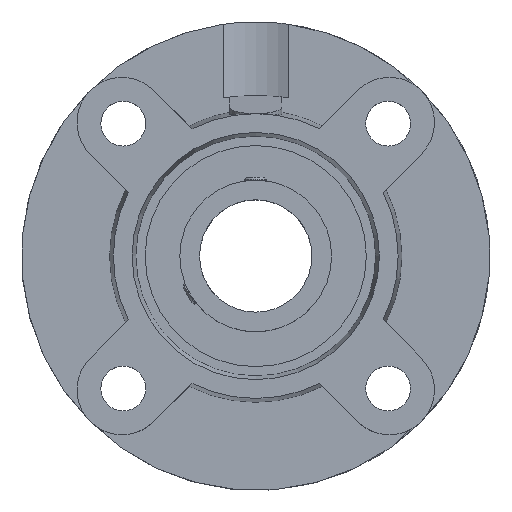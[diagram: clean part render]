
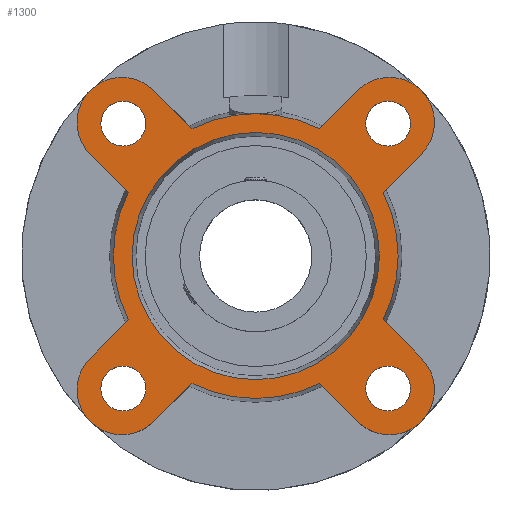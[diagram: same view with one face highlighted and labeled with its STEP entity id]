
A CAD part, top view. The second image highlights one B-rep face of the part: STEP entity #1300.
In plain terms, the highlighted planar face has unit normal (0, 0, 1).
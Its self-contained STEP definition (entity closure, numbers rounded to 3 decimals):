
#123=CARTESIAN_POINT('',(-29.355,-35.355,16.0));
#124=VERTEX_POINT('',#123);
#125=CARTESIAN_POINT('',(-35.355,-35.355,16.));
#126=DIRECTION('',(0.0,0.0,-1.0));
#127=DIRECTION('',(1.0,0.0,0.0));
#128=AXIS2_PLACEMENT_3D('',#125,#126,#127);
#129=CIRCLE('',#128,6.);
#130=EDGE_CURVE('',#124,#124,#129,.T.);
#151=CARTESIAN_POINT('',(-29.355,35.355,16.));
#152=VERTEX_POINT('',#151);
#153=CARTESIAN_POINT('',(-35.355,35.355,16.));
#154=DIRECTION('',(0.0,0.0,-1.0));
#155=DIRECTION('',(1.0,0.0,0.0));
#156=AXIS2_PLACEMENT_3D('',#153,#154,#155);
#157=CIRCLE('',#156,6.);
#158=EDGE_CURVE('',#152,#152,#157,.T.);
#179=CARTESIAN_POINT('',(41.355,35.355,16.));
#180=VERTEX_POINT('',#179);
#181=CARTESIAN_POINT('',(35.355,35.355,16.));
#182=DIRECTION('',(0.0,0.0,-1.0));
#183=DIRECTION('',(1.0,0.0,0.0));
#184=AXIS2_PLACEMENT_3D('',#181,#182,#183);
#185=CIRCLE('',#184,6.);
#186=EDGE_CURVE('',#180,#180,#185,.T.);
#207=CARTESIAN_POINT('',(41.355,-35.355,16.0));
#208=VERTEX_POINT('',#207);
#209=CARTESIAN_POINT('',(35.355,-35.355,16.));
#210=DIRECTION('',(0.0,0.0,-1.0));
#211=DIRECTION('',(1.0,0.0,0.0));
#212=AXIS2_PLACEMENT_3D('',#209,#210,#211);
#213=CIRCLE('',#212,6.);
#214=EDGE_CURVE('',#208,#208,#213,.T.);
#312=CARTESIAN_POINT('',(0.0,33.0,16.));
#313=VERTEX_POINT('',#312);
#314=CARTESIAN_POINT('',(0.0,0.,16.));
#315=DIRECTION('',(0.0,0.0,-1.0));
#316=DIRECTION('',(0.0,1.0,0.0));
#317=AXIS2_PLACEMENT_3D('',#314,#315,#316);
#318=CIRCLE('',#317,33.);
#319=EDGE_CURVE('',#313,#313,#318,.T.);
#601=CARTESIAN_POINT('',(0.,38.,16.));
#602=VERTEX_POINT('',#601);
#756=CARTESIAN_POINT('',(-17.01,33.98,16.));
#757=VERTEX_POINT('',#756);
#771=CARTESIAN_POINT('',(0.0,0.,16.));
#772=DIRECTION('',(0.0,0.0,1.0));
#773=DIRECTION('',(0.0,-1.0,0.0));
#774=AXIS2_PLACEMENT_3D('',#771,#772,#773);
#775=CIRCLE('',#774,38.);
#776=EDGE_CURVE('',#602,#757,#775,.T.);
#786=CARTESIAN_POINT('',(-17.01,-33.98,16.0));
#787=VERTEX_POINT('',#786);
#803=CARTESIAN_POINT('',(-27.224,-44.194,16.));
#804=VERTEX_POINT('',#803);
#805=CARTESIAN_POINT('',(-17.01,-33.98,16.0));
#806=DIRECTION('',(-0.707,-0.707,0.));
#807=VECTOR('',#806,14.444);
#808=LINE('',#805,#807);
#809=EDGE_CURVE('',#787,#804,#808,.T.);
#833=CARTESIAN_POINT('',(-33.98,17.01,16.));
#834=VERTEX_POINT('',#833);
#850=CARTESIAN_POINT('',(-44.194,27.224,16.));
#851=VERTEX_POINT('',#850);
#852=CARTESIAN_POINT('',(-33.98,17.01,16.));
#853=DIRECTION('',(-0.707,0.707,0.));
#854=VECTOR('',#853,14.444);
#855=LINE('',#852,#854);
#856=EDGE_CURVE('',#834,#851,#855,.T.);
#880=CARTESIAN_POINT('',(33.98,-17.01,16.));
#881=VERTEX_POINT('',#880);
#897=CARTESIAN_POINT('',(44.194,-27.224,16.));
#898=VERTEX_POINT('',#897);
#899=CARTESIAN_POINT('',(33.98,-17.01,16.));
#900=DIRECTION('',(0.707,-0.707,0.));
#901=VECTOR('',#900,14.444);
#902=LINE('',#899,#901);
#903=EDGE_CURVE('',#881,#898,#902,.T.);
#927=CARTESIAN_POINT('',(17.01,33.98,16.));
#928=VERTEX_POINT('',#927);
#942=CARTESIAN_POINT('',(27.224,44.194,16.));
#943=VERTEX_POINT('',#942);
#944=CARTESIAN_POINT('',(17.01,33.98,16.));
#945=DIRECTION('',(0.707,0.707,0.));
#946=VECTOR('',#945,14.444);
#947=LINE('',#944,#946);
#948=EDGE_CURVE('',#928,#943,#947,.T.);
#967=CARTESIAN_POINT('',(33.98,17.01,16.));
#968=VERTEX_POINT('',#967);
#990=CARTESIAN_POINT('',(44.194,27.224,16.));
#991=VERTEX_POINT('',#990);
#998=CARTESIAN_POINT('',(44.194,27.224,16.));
#999=DIRECTION('',(-0.707,-0.707,0.));
#1000=VECTOR('',#999,14.444);
#1001=LINE('',#998,#1000);
#1002=EDGE_CURVE('',#991,#968,#1001,.T.);
#1012=CARTESIAN_POINT('',(-44.194,-27.224,16.));
#1013=VERTEX_POINT('',#1012);
#1014=CARTESIAN_POINT('',(-35.709,-35.709,16.));
#1015=DIRECTION('',(0.0,0.0,-1.0));
#1016=DIRECTION('',(-0.707,0.707,0.0));
#1017=AXIS2_PLACEMENT_3D('',#1014,#1015,#1016);
#1018=CIRCLE('',#1017,12.);
#1019=EDGE_CURVE('',#804,#1013,#1018,.T.);
#1054=CARTESIAN_POINT('',(-33.98,-17.01,16.));
#1055=VERTEX_POINT('',#1054);
#1076=CARTESIAN_POINT('',(-44.194,-27.224,16.0));
#1077=DIRECTION('',(0.707,0.707,0.));
#1078=VECTOR('',#1077,14.444);
#1079=LINE('',#1076,#1078);
#1080=EDGE_CURVE('',#1013,#1055,#1079,.T.);
#1090=CARTESIAN_POINT('',(-27.224,44.194,16.));
#1091=VERTEX_POINT('',#1090);
#1092=CARTESIAN_POINT('',(-35.709,35.709,16.));
#1093=DIRECTION('',(0.0,0.0,-1.0));
#1094=DIRECTION('',(0.707,0.707,0.0));
#1095=AXIS2_PLACEMENT_3D('',#1092,#1093,#1094);
#1096=CIRCLE('',#1095,12.);
#1097=EDGE_CURVE('',#851,#1091,#1096,.T.);
#1125=CARTESIAN_POINT('',(-27.224,44.194,16.));
#1126=DIRECTION('',(0.707,-0.707,0.));
#1127=VECTOR('',#1126,14.444);
#1128=LINE('',#1125,#1127);
#1129=EDGE_CURVE('',#1091,#757,#1128,.T.);
#1139=CARTESIAN_POINT('',(27.224,-44.194,16.));
#1140=VERTEX_POINT('',#1139);
#1141=CARTESIAN_POINT('',(35.709,-35.709,16.));
#1142=DIRECTION('',(0.0,0.0,-1.0));
#1143=DIRECTION('',(-0.707,-0.707,0.0));
#1144=AXIS2_PLACEMENT_3D('',#1141,#1142,#1143);
#1145=CIRCLE('',#1144,12.);
#1146=EDGE_CURVE('',#898,#1140,#1145,.T.);
#1181=CARTESIAN_POINT('',(17.01,-33.98,16.));
#1182=VERTEX_POINT('',#1181);
#1203=CARTESIAN_POINT('',(27.224,-44.194,16.0));
#1204=DIRECTION('',(-0.707,0.707,0.));
#1205=VECTOR('',#1204,14.444);
#1206=LINE('',#1203,#1205);
#1207=EDGE_CURVE('',#1140,#1182,#1206,.T.);
#1217=CARTESIAN_POINT('',(35.709,35.709,16.));
#1218=DIRECTION('',(0.0,0.0,-1.0));
#1219=DIRECTION('',(0.707,-0.707,0.0));
#1220=AXIS2_PLACEMENT_3D('',#1217,#1218,#1219);
#1221=CIRCLE('',#1220,12.);
#1222=EDGE_CURVE('',#943,#991,#1221,.T.);
#1237=CARTESIAN_POINT('',(0.0,-19.,16.));
#1238=DIRECTION('',(0.0,0.0,1.0));
#1239=DIRECTION('',(1.0,0.0,0.0));
#1240=AXIS2_PLACEMENT_3D('',#1237,#1238,#1239);
#1241=PLANE('',#1240);
#1242=CARTESIAN_POINT('',(0.0,0.,16.));
#1243=DIRECTION('',(0.0,0.0,1.0));
#1244=DIRECTION('',(0.0,-1.0,0.0));
#1245=AXIS2_PLACEMENT_3D('',#1242,#1243,#1244);
#1246=CIRCLE('',#1245,38.);
#1247=EDGE_CURVE('',#787,#1182,#1246,.T.);
#1248=ORIENTED_EDGE('',*,*,#1247,.T.);
#1249=ORIENTED_EDGE('',*,*,#1207,.F.);
#1250=ORIENTED_EDGE('',*,*,#1146,.F.);
#1251=ORIENTED_EDGE('',*,*,#903,.F.);
#1252=CARTESIAN_POINT('',(0.0,0.,16.));
#1253=DIRECTION('',(0.0,0.0,1.0));
#1254=DIRECTION('',(0.0,-1.0,0.0));
#1255=AXIS2_PLACEMENT_3D('',#1252,#1253,#1254);
#1256=CIRCLE('',#1255,38.);
#1257=EDGE_CURVE('',#881,#968,#1256,.T.);
#1258=ORIENTED_EDGE('',*,*,#1257,.T.);
#1259=ORIENTED_EDGE('',*,*,#1002,.F.);
#1260=ORIENTED_EDGE('',*,*,#1222,.F.);
#1261=ORIENTED_EDGE('',*,*,#948,.F.);
#1262=CARTESIAN_POINT('',(0.0,0.,16.));
#1263=DIRECTION('',(0.0,0.0,1.0));
#1264=DIRECTION('',(0.0,-1.0,0.0));
#1265=AXIS2_PLACEMENT_3D('',#1262,#1263,#1264);
#1266=CIRCLE('',#1265,38.);
#1267=EDGE_CURVE('',#928,#602,#1266,.T.);
#1268=ORIENTED_EDGE('',*,*,#1267,.T.);
#1269=ORIENTED_EDGE('',*,*,#776,.T.);
#1270=ORIENTED_EDGE('',*,*,#1129,.F.);
#1271=ORIENTED_EDGE('',*,*,#1097,.F.);
#1272=ORIENTED_EDGE('',*,*,#856,.F.);
#1273=CARTESIAN_POINT('',(0.0,0.,16.));
#1274=DIRECTION('',(0.0,0.0,1.0));
#1275=DIRECTION('',(0.0,-1.0,0.0));
#1276=AXIS2_PLACEMENT_3D('',#1273,#1274,#1275);
#1277=CIRCLE('',#1276,38.);
#1278=EDGE_CURVE('',#834,#1055,#1277,.T.);
#1279=ORIENTED_EDGE('',*,*,#1278,.T.);
#1280=ORIENTED_EDGE('',*,*,#1080,.F.);
#1281=ORIENTED_EDGE('',*,*,#1019,.F.);
#1282=ORIENTED_EDGE('',*,*,#809,.F.);
#1283=EDGE_LOOP('',(#1248,#1249,#1250,#1251,#1258,#1259,#1260,#1261,#1268,#1269,#1270,#1271,#1272,#1279,#1280,#1281,#1282));
#1284=FACE_OUTER_BOUND('',#1283,.T.);
#1285=ORIENTED_EDGE('',*,*,#130,.T.);
#1286=EDGE_LOOP('',(#1285));
#1287=FACE_BOUND('',#1286,.T.);
#1288=ORIENTED_EDGE('',*,*,#158,.T.);
#1289=EDGE_LOOP('',(#1288));
#1290=FACE_BOUND('',#1289,.T.);
#1291=ORIENTED_EDGE('',*,*,#186,.T.);
#1292=EDGE_LOOP('',(#1291));
#1293=FACE_BOUND('',#1292,.T.);
#1294=ORIENTED_EDGE('',*,*,#214,.T.);
#1295=EDGE_LOOP('',(#1294));
#1296=FACE_BOUND('',#1295,.T.);
#1297=ORIENTED_EDGE('',*,*,#319,.T.);
#1298=EDGE_LOOP('',(#1297));
#1299=FACE_BOUND('',#1298,.T.);
#1300=ADVANCED_FACE('',(#1284,#1287,#1290,#1293,#1296,#1299),#1241,.T.);
